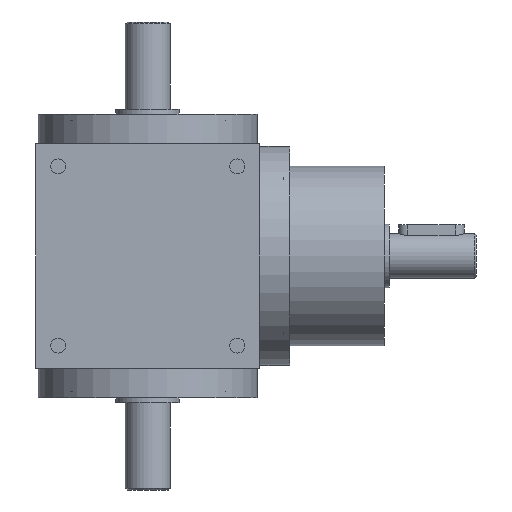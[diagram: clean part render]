
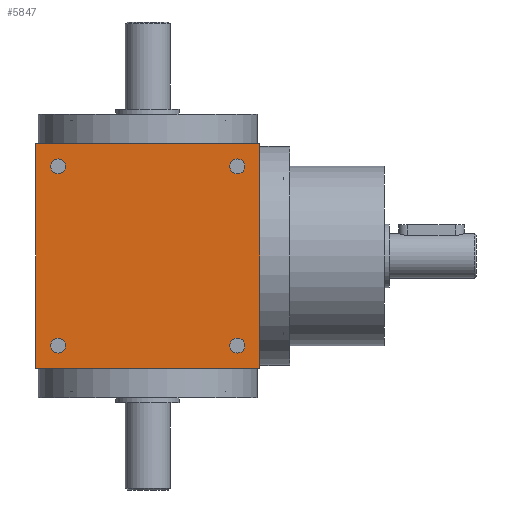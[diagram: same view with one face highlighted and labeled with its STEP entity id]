
A CAD part, left-side view. The second image highlights one B-rep face of the part: STEP entity #5847.
In plain terms, the highlighted planar face has unit normal (-1, 0, 0).
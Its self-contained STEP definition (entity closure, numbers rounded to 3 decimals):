
#79 = PLANE ( 'NONE',  #3778 ) ;
#114 = DIRECTION ( 'NONE',  ( 0., 0., -1. ) ) ;
#136 = DIRECTION ( 'NONE',  ( 1., 0., 0. ) ) ;
#327 = ORIENTED_EDGE ( 'NONE', *, *, #5252, .T. ) ;
#336 = ORIENTED_EDGE ( 'NONE', *, *, #3345, .T. ) ;
#410 = AXIS2_PLACEMENT_3D ( 'NONE', #4788, #4617, #4547 ) ;
#581 = ORIENTED_EDGE ( 'NONE', *, *, #4651, .F. ) ;
#621 = DIRECTION ( 'NONE',  ( 0., 1., 0. ) ) ;
#655 = CARTESIAN_POINT ( 'NONE',  ( -45., -36., 36. ) ) ;
#683 = CARTESIAN_POINT ( 'NONE',  ( -45., 45., -45. ) ) ;
#687 = ORIENTED_EDGE ( 'NONE', *, *, #5305, .T. ) ;
#747 = DIRECTION ( 'NONE',  ( 0., 0., -1. ) ) ;
#874 = AXIS2_PLACEMENT_3D ( 'NONE', #3188, #2952, #2866 ) ;
#966 = CARTESIAN_POINT ( 'NONE',  ( -45., 36., -39. ) ) ;
#1100 = AXIS2_PLACEMENT_3D ( 'NONE', #3164, #3152, #3086 ) ;
#1144 = ORIENTED_EDGE ( 'NONE', *, *, #5432, .T. ) ;
#1197 = CARTESIAN_POINT ( 'NONE',  ( -45., 45., -45. ) ) ;
#1260 = AXIS2_PLACEMENT_3D ( 'NONE', #5653, #4595, #5587 ) ;
#1443 = DIRECTION ( 'NONE',  ( 1., 0., 0. ) ) ;
#1464 = FACE_BOUND ( 'NONE', #5652, .T. ) ;
#1474 = FACE_BOUND ( 'NONE', #5112, .T. ) ;
#1496 = FACE_BOUND ( 'NONE', #5603, .T. ) ;
#1517 = FACE_OUTER_BOUND ( 'NONE', #5586, .T. ) ;
#1549 = FACE_BOUND ( 'NONE', #5537, .T. ) ;
#1590 = DIRECTION ( 'NONE',  ( 0., 0., -1. ) ) ;
#1686 = CARTESIAN_POINT ( 'NONE',  ( -45., -45., 45. ) ) ;
#1983 = CARTESIAN_POINT ( 'NONE',  ( -45., -36., -33. ) ) ;
#1991 = VERTEX_POINT ( 'NONE', #966 ) ;
#2025 = DIRECTION ( 'NONE',  ( 0., 0., -1. ) ) ;
#2195 = DIRECTION ( 'NONE',  ( 1., 0., 0. ) ) ;
#2285 = VERTEX_POINT ( 'NONE', #4267 ) ;
#2312 = ORIENTED_EDGE ( 'NONE', *, *, #3278, .T. ) ;
#2429 = ORIENTED_EDGE ( 'NONE', *, *, #5219, .F. ) ;
#2447 = ORIENTED_EDGE ( 'NONE', *, *, #5610, .T. ) ;
#2504 = CARTESIAN_POINT ( 'NONE',  ( -45., 36., 33. ) ) ;
#2564 = ORIENTED_EDGE ( 'NONE', *, *, #5099, .F. ) ;
#2619 = ORIENTED_EDGE ( 'NONE', *, *, #5193, .F. ) ;
#2684 = ORIENTED_EDGE ( 'NONE', *, *, #3571, .T. ) ;
#2702 = CARTESIAN_POINT ( 'NONE',  ( -45., -45., 45. ) ) ;
#2730 = CIRCLE ( 'NONE', #874, 3. ) ;
#2866 = DIRECTION ( 'NONE',  ( 0., 0., -1. ) ) ;
#2907 = ORIENTED_EDGE ( 'NONE', *, *, #3518, .T. ) ;
#2952 = DIRECTION ( 'NONE',  ( 1., 0., 0. ) ) ;
#2963 = AXIS2_PLACEMENT_3D ( 'NONE', #4641, #4519, #5081 ) ;
#3003 = AXIS2_PLACEMENT_3D ( 'NONE', #5073, #5057, #3601 ) ;
#3057 = AXIS2_PLACEMENT_3D ( 'NONE', #655, #2195, #2025 ) ;
#3086 = DIRECTION ( 'NONE',  ( 0., 0., -1. ) ) ;
#3113 = AXIS2_PLACEMENT_3D ( 'NONE', #6242, #136, #114 ) ;
#3152 = DIRECTION ( 'NONE',  ( 1., 0., 0. ) ) ;
#3164 = CARTESIAN_POINT ( 'NONE',  ( -45., 36., -36. ) ) ;
#3188 = CARTESIAN_POINT ( 'NONE',  ( -45., -36., -36. ) ) ;
#3278 = EDGE_CURVE ( 'NONE', #4341, #3901, #5332, .T. ) ;
#3345 = EDGE_CURVE ( 'NONE', #3351, #3658, #5262, .T. ) ;
#3351 = VERTEX_POINT ( 'NONE', #5818 ) ;
#3394 = CIRCLE ( 'NONE', #410, 3. ) ;
#3510 = CARTESIAN_POINT ( 'NONE',  ( -45., -45., 45. ) ) ;
#3518 = EDGE_CURVE ( 'NONE', #5009, #1991, #5186, .T. ) ;
#3551 = VERTEX_POINT ( 'NONE', #3510 ) ;
#3571 = EDGE_CURVE ( 'NONE', #6018, #4204, #5132, .T. ) ;
#3601 = DIRECTION ( 'NONE',  ( 0., 0., -1. ) ) ;
#3658 = VERTEX_POINT ( 'NONE', #4536 ) ;
#3778 = AXIS2_PLACEMENT_3D ( 'NONE', #2702, #1443, #747 ) ;
#3901 = VERTEX_POINT ( 'NONE', #4158 ) ;
#3970 = CIRCLE ( 'NONE', #1100, 3. ) ;
#4110 = CIRCLE ( 'NONE', #1260, 3. ) ;
#4158 = CARTESIAN_POINT ( 'NONE',  ( -45., -36., -39. ) ) ;
#4204 = VERTEX_POINT ( 'NONE', #2504 ) ;
#4226 = CARTESIAN_POINT ( 'NONE',  ( -45., 36., 39. ) ) ;
#4237 = LINE ( 'NONE', #1686, #4319 ) ;
#4267 = CARTESIAN_POINT ( 'NONE',  ( -45., -45., -45. ) ) ;
#4319 = VECTOR ( 'NONE', #1590, 1000. ) ;
#4327 = LINE ( 'NONE', #5056, #4332 ) ;
#4332 = VECTOR ( 'NONE', #5039, 1000. ) ;
#4341 = VERTEX_POINT ( 'NONE', #1983 ) ;
#4519 = DIRECTION ( 'NONE',  ( 1., 0., 0. ) ) ;
#4536 = CARTESIAN_POINT ( 'NONE',  ( -45., -36., 33. ) ) ;
#4547 = DIRECTION ( 'NONE',  ( 0., 0., -1. ) ) ;
#4549 = VERTEX_POINT ( 'NONE', #1197 ) ;
#4573 = VECTOR ( 'NONE', #5853, 1000. ) ;
#4595 = DIRECTION ( 'NONE',  ( 1., 0., 0. ) ) ;
#4605 = LINE ( 'NONE', #5629, #4573 ) ;
#4617 = DIRECTION ( 'NONE',  ( 1., 0., 0. ) ) ;
#4641 = CARTESIAN_POINT ( 'NONE',  ( -45., 36., 36. ) ) ;
#4651 = EDGE_CURVE ( 'NONE', #2285, #4549, #4712, .T. ) ;
#4712 = LINE ( 'NONE', #683, #4733 ) ;
#4733 = VECTOR ( 'NONE', #621, 1000. ) ;
#4788 = CARTESIAN_POINT ( 'NONE',  ( -45., -36., 36. ) ) ;
#4982 = CARTESIAN_POINT ( 'NONE',  ( -45., 45., 45. ) ) ;
#5009 = VERTEX_POINT ( 'NONE', #6151 ) ;
#5039 = DIRECTION ( 'NONE',  ( 0., 0., 1. ) ) ;
#5056 = CARTESIAN_POINT ( 'NONE',  ( -45., 45., 45. ) ) ;
#5057 = DIRECTION ( 'NONE',  ( 1., 0., 0. ) ) ;
#5073 = CARTESIAN_POINT ( 'NONE',  ( -45., 36., -36. ) ) ;
#5081 = DIRECTION ( 'NONE',  ( 0., 0., -1. ) ) ;
#5099 = EDGE_CURVE ( 'NONE', #6106, #3551, #4605, .T. ) ;
#5112 = EDGE_LOOP ( 'NONE', ( #2907, #687 ) ) ;
#5132 = CIRCLE ( 'NONE', #2963, 3. ) ;
#5186 = CIRCLE ( 'NONE', #3003, 3. ) ;
#5193 = EDGE_CURVE ( 'NONE', #4549, #6106, #4327, .T. ) ;
#5219 = EDGE_CURVE ( 'NONE', #3551, #2285, #4237, .T. ) ;
#5252 = EDGE_CURVE ( 'NONE', #4204, #6018, #4110, .T. ) ;
#5262 = CIRCLE ( 'NONE', #3057, 3. ) ;
#5305 = EDGE_CURVE ( 'NONE', #1991, #5009, #3970, .T. ) ;
#5332 = CIRCLE ( 'NONE', #3113, 3. ) ;
#5432 = EDGE_CURVE ( 'NONE', #3658, #3351, #3394, .T. ) ;
#5537 = EDGE_LOOP ( 'NONE', ( #2684, #327 ) ) ;
#5586 = EDGE_LOOP ( 'NONE', ( #2564, #2619, #581, #2429 ) ) ;
#5587 = DIRECTION ( 'NONE',  ( 0., 0., -1. ) ) ;
#5603 = EDGE_LOOP ( 'NONE', ( #336, #1144 ) ) ;
#5610 = EDGE_CURVE ( 'NONE', #3901, #4341, #2730, .T. ) ;
#5629 = CARTESIAN_POINT ( 'NONE',  ( -45., 45., 45. ) ) ;
#5652 = EDGE_LOOP ( 'NONE', ( #2312, #2447 ) ) ;
#5653 = CARTESIAN_POINT ( 'NONE',  ( -45., 36., 36. ) ) ;
#5818 = CARTESIAN_POINT ( 'NONE',  ( -45., -36., 39. ) ) ;
#5847 = ADVANCED_FACE ( 'NONE', ( #1517, #1549, #1474, #1496, #1464 ), #79, .F. ) ;
#5853 = DIRECTION ( 'NONE',  ( 0., -1., 0. ) ) ;
#6018 = VERTEX_POINT ( 'NONE', #4226 ) ;
#6106 = VERTEX_POINT ( 'NONE', #4982 ) ;
#6151 = CARTESIAN_POINT ( 'NONE',  ( -45., 36., -33. ) ) ;
#6242 = CARTESIAN_POINT ( 'NONE',  ( -45., -36., -36. ) ) ;
